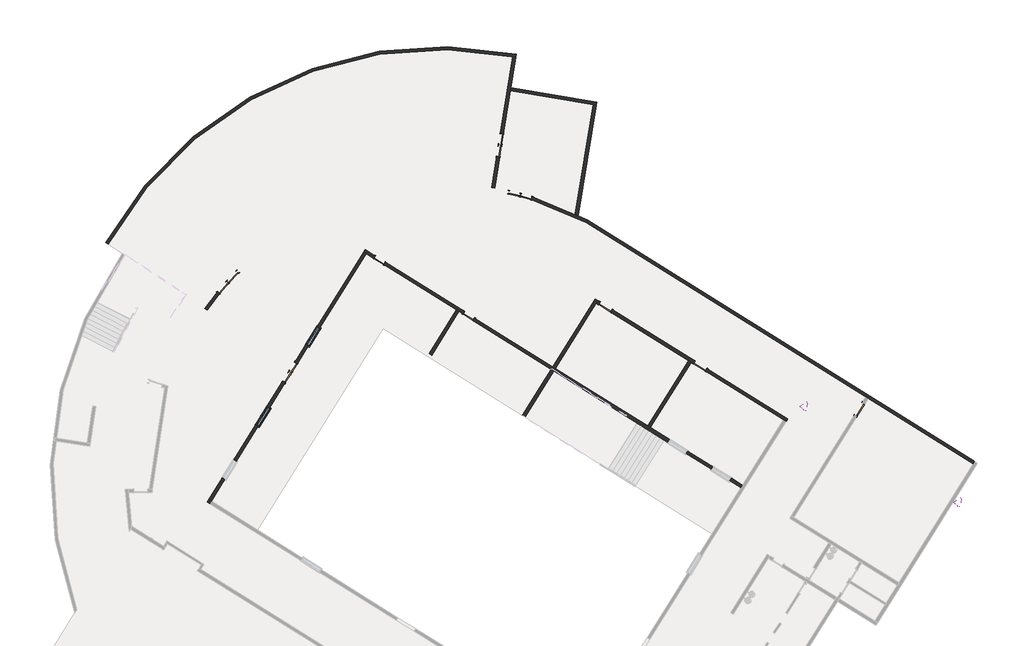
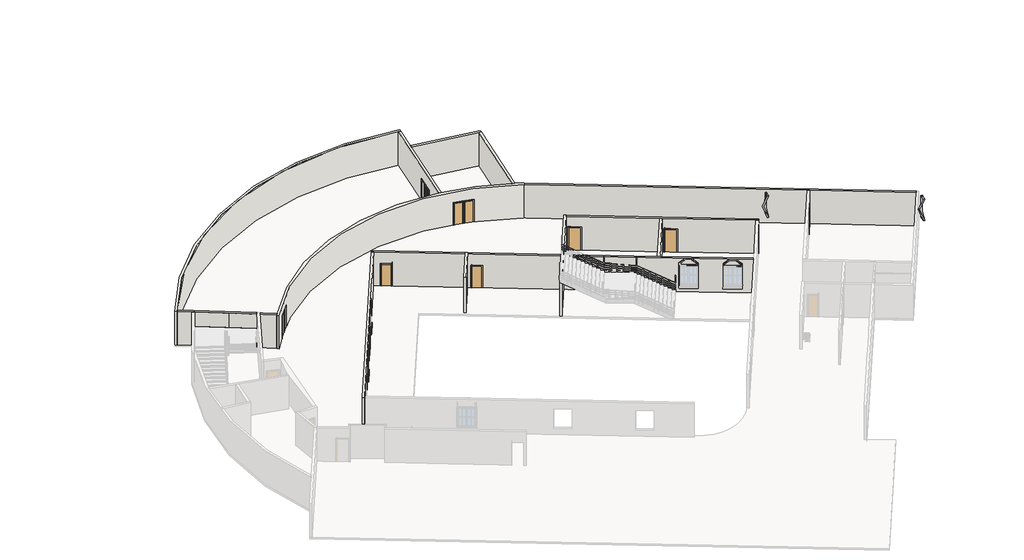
# One storey, part 3 of 4: 14 walls, 13 doors, 2 plates, 2 windows.
"""IFC4 building model written with IfcOpenShell, lengths in millimetres."""

from ifc_helpers import new_model, si_unit, point, frame, frame_2d, origin, place, context, project, spatial, polyline, circle_curve, trimmed, segment, composite_curve, outline, extrude, faceted_brep, transform, mapped, element, save
from ifc_brep_helpers import plane_surface, cylinder_surface, revolved_surface, advanced_brep
from components import m_single_flush_0762_x_2032mm_0c256fab, m_single_flush_0762_x_2032mm_7341a4fb, m_single_flush_0915_x_2134mm_6a9e8738, m_single_flush_0915_x_2134mm_727434cd, plate_91021fb5, m_window_casement_double_1400_x_1800mm_eb8f2d9a

model = new_model("IFC4")

# Units and contexts
model_context = context("Model", 3, world=origin())
ifc_project = project(units=[si_unit("LENGTHUNIT", "METRE", prefix="MILLI")], contexts=[model_context])

# Site, building, storey
site = spatial("IfcSite", under=ifc_project)
building = spatial("IfcBuilding", under=site)
storey = spatial("IfcBuildingStorey", under=building, Name="\u200fمنفی", Elevation=-3600.0)

# Doors
placement = place(None, origin())
m_single_flush_0762_x_2032mm_shape = m_single_flush_0762_x_2032mm_0c256fab(model_context)
element("IfcDoor", 1, ObjectType="M_Single-Flush : 0762 x 2032mm", at=placement, inside=storey, context=model_context, shape_type="MappedRepresentation", body=[
    mapped(m_single_flush_0762_x_2032mm_shape, transform((33797.3332217, -15585.6311152, -3600.0), x_axis=(-0.973075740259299, 0.23048558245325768, 0.0), y_axis=(-0.23048558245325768, -0.973075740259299, 0.0), z_axis=(0.0, 0.0, 1.0))),
])
element("IfcDoor", 2, ObjectType="M_Single-Flush : 0762 x 2032mm", at=placement, inside=storey, context=model_context, shape_type="MappedRepresentation", body=[
    mapped(m_single_flush_0762_x_2032mm_shape, transform((32762.4207323, -12747.5882262, -3600.0), x_axis=(-0.16136449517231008, -0.9868948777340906, 0.0), y_axis=(0.9868948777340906, -0.16136449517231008, 0.0), z_axis=(0.0, 0.0, 1.0))),
])
element("IfcDoor", 3, ObjectType="M_Single-Flush : 0762 x 2032mm", at=placement, inside=storey, context=model_context, shape_type="MappedRepresentation", body=[
    mapped(m_single_flush_0762_x_2032mm_shape, transform((24849.7667953, -19990.8912664, -3600.0), x_axis=(-0.8480480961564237, 0.5299192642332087, 0.0), y_axis=(-0.5299192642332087, -0.8480480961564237, 0.0), z_axis=(0.0, 0.0, 1.0))),
])
element("IfcDoor", 4, ObjectType="M_Single-Flush : 0762 x 2032mm", at=placement, inside=storey, context=model_context, shape_type="MappedRepresentation", body=[
    mapped(m_single_flush_0762_x_2032mm_shape, transform((30753.8776407, -23680.189184, -3600.0), x_axis=(-0.8480480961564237, 0.5299192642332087, 0.0), y_axis=(-0.5299192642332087, -0.8480480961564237, 0.0), z_axis=(0.0, 0.0, 1.0))),
])
element("IfcDoor", 5, ObjectType="M_Single-Flush : 0762 x 2032mm", at=placement, inside=storey, context=model_context, shape_type="MappedRepresentation", body=[
    mapped(m_single_flush_0762_x_2032mm_shape, transform((18749.8864799, -27712.8069703, -3600.0), x_axis=(-0.5299192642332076, -0.8480480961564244, 0.0), y_axis=(0.8480480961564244, -0.5299192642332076, 0.0), z_axis=(0.0, 0.0, 1.0))),
])
m_single_flush_0762_x_2032mm_2_shape = m_single_flush_0762_x_2032mm_7341a4fb(model_context)
element("IfcDoor", 6, ObjectType="M_Single-Flush : 0762 x 2032mm", at=placement, inside=storey, context=model_context, shape_type="MappedRepresentation", body=[
    mapped(m_single_flush_0762_x_2032mm_2_shape, transform((34537.5152549, -15776.2844256, -3600.0), x_axis=(0.9633385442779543, -0.26828874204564, 0.0), y_axis=(0.26828874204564, 0.9633385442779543, 0.0), z_axis=(0.0, 0.0, 1.0))),
])
element("IfcDoor", 7, ObjectType="M_Single-Flush : 0762 x 2032mm", at=placement, inside=storey, context=model_context, shape_type="MappedRepresentation", body=[
    mapped(m_single_flush_0762_x_2032mm_2_shape, transform((32883.6421326, -12006.2059358, -3600.0), x_axis=(0.16136449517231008, 0.9868948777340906, 0.0), y_axis=(-0.9868948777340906, 0.16136449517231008, 0.0), z_axis=(0.0, 0.0, 1.0))),
])
element("IfcDoor", 8, ObjectType="M_Single-Flush : 0762 x 2032mm", at=placement, inside=storey, context=model_context, shape_type="MappedRepresentation", body=[
    mapped(m_single_flush_0762_x_2032mm_2_shape, transform((19120.8299648, -27119.1733029, -3600.0), x_axis=(0.5299192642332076, 0.8480480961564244, 0.0), y_axis=(-0.8480480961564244, 0.5299192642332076, 0.0), z_axis=(0.0, 0.0, 1.0))),
])
m_single_flush_0915_x_2134mm_shape = m_single_flush_0915_x_2134mm_6a9e8738(model_context)
element("IfcDoor", 9, ObjectType="M_Single-Flush : 0915 x 2134mm", at=placement, inside=storey, context=model_context, shape_type="MappedRepresentation", body=[
    mapped(m_single_flush_0915_x_2134mm_shape, transform((39792.5014226, -23078.5026309, -3600.0), x_axis=(-0.8480480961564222, 0.5299192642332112, 0.0), y_axis=(-0.5299192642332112, -0.8480480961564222, 0.0), z_axis=(0.0, 0.0, 1.0))),
])
element("IfcDoor", 10, ObjectType="M_Single-Flush : 0915 x 2134mm", at=placement, inside=storey, context=model_context, shape_type="MappedRepresentation", body=[
    mapped(m_single_flush_0915_x_2134mm_shape, transform((46068.0573341, -26999.9051862, -3600.0), x_axis=(-0.8480480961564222, 0.5299192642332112, 0.0), y_axis=(-0.5299192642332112, -0.8480480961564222, 0.0), z_axis=(0.0, 0.0, 1.0))),
])
element("IfcDoor", 11, ObjectType="M_Single-Flush : 0915 x 2134mm", at=placement, inside=storey, context=model_context, shape_type="MappedRepresentation", body=[
    mapped(m_single_flush_0915_x_2134mm_shape, transform((14514.070001, -21787.4987263, -3600.0), x_axis=(-0.6563837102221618, -0.754427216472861, 0.0), y_axis=(0.754427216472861, -0.6563837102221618, 0.0), z_axis=(0.0, 0.0, 1.0))),
])
m_single_flush_0915_x_2134mm_2_shape = m_single_flush_0915_x_2134mm_727434cd(model_context)
element("IfcDoor", 12, ObjectType="M_Single-Flush : 0915 x 2134mm", at=placement, inside=storey, context=model_context, shape_type="MappedRepresentation", body=[
    mapped(m_single_flush_0915_x_2134mm_2_shape, transform((56609.7403765, -29863.8240283, -3600.0), x_axis=(0.5299192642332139, 0.8480480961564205, 0.0), y_axis=(-0.8480480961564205, 0.5299192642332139, 0.0), z_axis=(0.0, 0.0, 1.0))),
])
element("IfcDoor", 13, ObjectType="M_Single-Flush : 0915 x 2134mm", at=placement, inside=storey, context=model_context, shape_type="MappedRepresentation", body=[
    mapped(m_single_flush_0915_x_2134mm_2_shape, transform((15133.3165078, -21108.6081018, -3600.0), x_axis=(0.6910594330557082, 0.7227979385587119, 0.0), y_axis=(-0.7227979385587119, 0.6910594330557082, 0.0), z_axis=(0.0, 0.0, 1.0))),
])

# Plates
plate_shape = plate_91021fb5(model_context)
element("IfcPlate", 14, ObjectType="مدل پارامتریک کصینوس دار : مدل پارامتریک کصینوس دار", at=placement, inside=storey, context=model_context, shape_type="MappedRepresentation", body=[
    mapped(plate_shape, transform((65038.7048922, -36849.4781454, -4050.0), x_axis=(0.0, 0.0, 1.0), y_axis=(-0.8480480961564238, 0.5299192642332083, 0.0), z_axis=(-0.5299192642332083, -0.8480480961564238, 0.0))),
])
element("IfcPlate", 15, ObjectType="مدل پارامتریک کصینوس دار : مدل پارامتریک کصینوس دار", at=placement, inside=storey, context=model_context, shape_type="MappedRepresentation", body=[
    mapped(plate_shape, transform((54862.1277383, -30490.4469746, -4050.0), x_axis=(0.0, 0.0, 1.0), y_axis=(-0.848048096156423, 0.5299192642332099, 0.0), z_axis=(-0.5299192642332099, -0.848048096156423, 0.0))),
])

# Walls
element("IfcWall", 16, ObjectType="Generic - 200mm", at=placement, inside=storey, context=model_context, shape_type="AdvancedBrep", body=[
    advanced_brep(
    [(13445.4262447, -23292.1887717, -3600.0), (13282.8378757, -23175.7197962, -3600.0), (13319.2863294, -23125.0087401, -3600.0), (13437.24682, -22963.1785232, -3600.0), (14138.3317319, -22067.0108068, -3600.0), (14289.2583664, -22198.323387, -3600.0), (15521.7954565, -20847.0717196, -3600.0), (15377.1964046, -20708.8221016, -3600.0), (32263.1334008, -15181.4542954, -3600.0), (32460.6801651, -15212.7248465, -3600.0), (33449.639923, -15400.5085343, -3600.0), (33403.5340799, -15595.1605246, -3600.0), (14738.9228268, -21376.7099038, -3600.0), (14744.8770233, -21370.1822154, -3600.0), (14880.9433918, -21500.2738254, -3600.0), (38637.861393, -17319.0816534, -3600.0), (38537.2635158, -17492.0568037, -3600.0), (34877.7082082, -15974.8727644, -3600.0), (34931.3761144, -15782.1685819, -3600.0), (37800.5152537, -16892.3648764, -3600.0), (37988.0371855, -16983.579326, -3600.0), (34191.123637, -15576.1385481, -3600.0), (34197.3121437, -15577.7325604, -3600.0), (34153.392358, -15735.4343788, -3600.0), (13282.8378757, -23175.7197962, -450.0), (13319.2823365, -23125.0141408, -450.0), (13437.2411329, -22963.1861804, -450.0), (32263.133704, -15181.4541786, -450.0), (32460.6766464, -15212.7242494, -450.0), (37800.5185603, -16892.3663917, -450.0), (37988.0441018, -16983.582705, -450.0), (38637.861393, -17319.0816534, -450.0), (34931.3761144, -15782.1685819, -1568.0), (34197.3121437, -15577.7325604, -1568.0), (34191.123637, -15576.1385481, -1568.0), (33449.639923, -15400.5085343, -1568.0), (15377.1964046, -20708.8221016, -1466.0), (14744.8770233, -21370.1822154, -1466.0), (14738.9228268, -21376.7099038, -1466.0), (14138.3317319, -22067.0108068, -1466.0), (13445.4262447, -23292.1887717, -450.0), (14289.2583664, -22198.323387, -1466.0), (15521.7954565, -20847.0717196, -1466.0), (33403.5340799, -15595.1605246, -1568.0), (34877.7082082, -15974.8727644, -1568.0), (38537.2635158, -17492.0568037, -450.0), (14880.9433918, -21500.2738254, -1466.0), (34153.392358, -15735.4343788, -1568.0)],
    [
        (0, 1),
        (1, 2, circle_curve(frame((29284.4488792, -34638.3554793, -3600.0), z_axis=(0.0, 0.0, -1.0), x_axis=(1.0, 0.0, 0.0)), 19683.5863478)),
        (2, 3, circle_curve(frame((29284.4488792, -34638.3554793, -3600.0), z_axis=(0.0, 0.0, -1.0), x_axis=(1.0, 0.0, 0.0)), 19683.5862681)),
        (3, 4, circle_curve(frame((29284.4488792, -34638.3554793, -3600.0), z_axis=(0.0, 0.0, -1.0), x_axis=(1.0, 0.0, 0.0)), 19683.5863109)),
        (4, 5),
        (5, 0, circle_curve(frame((29284.4488792, -34638.3554793, -3600.0), z_axis=(0.0, 0.0, 1.0), x_axis=(1.0, 0.0, 0.0)), 19483.5863478)),
        (6, 7),
        (7, 8, circle_curve(frame((29284.4488792, -34638.3554793, -3600.0), z_axis=(0.0, 0.0, -1.0), x_axis=(1.0, 0.0, 0.0)), 19683.5863478)),
        (8, 9, circle_curve(frame((29284.4488792, -34638.3554793, -3600.0), z_axis=(0.0, 0.0, -1.0), x_axis=(1.0, 0.0, 0.0)), 19683.5861864)),
        (9, 10, circle_curve(frame((29284.4488792, -34638.3554793, -3600.0), z_axis=(0.0, 0.0, -1.0), x_axis=(1.0, 0.0, 0.0)), 19683.5863262)),
        (10, 11),
        (11, 6, circle_curve(frame((29284.4488792, -34638.3554793, -3600.0), z_axis=(0.0, 0.0, 1.0), x_axis=(1.0, 0.0, 0.0)), 19483.5863478)),
        (12, 13, circle_curve(frame((29284.4488792, -34638.3554793, -3600.0), z_axis=(0.0, 0.0, -1.0), x_axis=(1.0, 0.0, 0.0)), 19683.5863478)),
        (13, 14),
        (14, 12),
        (15, 16),
        (16, 17, circle_curve(frame((29284.4488792, -34638.3554793, -3600.0), z_axis=(0.0, 0.0, 1.0), x_axis=(1.0, 0.0, 0.0)), 19483.5863478)),
        (17, 18),
        (18, 19, circle_curve(frame((29284.4488792, -34638.3554793, -3600.0), z_axis=(0.0, 0.0, -1.0), x_axis=(1.0, 0.0, 0.0)), 19683.5863478)),
        (19, 20, circle_curve(frame((29284.4488792, -34638.3554793, -3600.0), z_axis=(0.0, 0.0, -1.0), x_axis=(1.0, 0.0, 0.0)), 19683.5862834)),
        (20, 15, circle_curve(frame((29284.4488792, -34638.3554793, -3600.0), z_axis=(0.0, 0.0, -1.0), x_axis=(1.0, 0.0, 0.0)), 19683.5863203)),
        (21, 22, circle_curve(frame((29284.4488792, -34638.3554793, -3600.0), z_axis=(0.0, 0.0, -1.0), x_axis=(1.0, 0.0, 0.0)), 19683.5863478)),
        (22, 23),
        (23, 21),
        (1, 24),
        (24, 25, circle_curve(frame((29284.4488792, -34638.3554793, -450.0), z_axis=(0.0, 0.0, -1.0), x_axis=(1.0, 0.0, 0.0)), 19683.5863478)),
        (25, 26, circle_curve(frame((29284.4488792, -34638.3554793, -450.0), z_axis=(0.0, 0.0, -1.0), x_axis=(1.0, 0.0, 0.0)), 19683.5863478)),
        (26, 27, circle_curve(frame((29284.4488792, -34638.3554793, -450.0), z_axis=(0.0, 0.0, -1.0), x_axis=(1.0, 0.0, 0.0)), 19683.5863478)),
        (27, 28, circle_curve(frame((29284.4488792, -34638.3554793, -450.0), z_axis=(0.0, 0.0, -1.0), x_axis=(1.0, 0.0, 0.0)), 19683.5863478)),
        (28, 29, circle_curve(frame((29284.4488792, -34638.3554793, -450.0), z_axis=(0.0, 0.0, -1.0), x_axis=(1.0, 0.0, 0.0)), 19683.5863478)),
        (29, 30, circle_curve(frame((29284.4488792, -34638.3554793, -450.0), z_axis=(0.0, 0.0, -1.0), x_axis=(1.0, 0.0, 0.0)), 19683.5863478)),
        (30, 31, circle_curve(frame((29284.4488792, -34638.3554793, -450.0), z_axis=(0.0, 0.0, -1.0), x_axis=(1.0, 0.0, 0.0)), 19683.5863478)),
        (31, 15),
        (18, 32),
        (32, 33, circle_curve(frame((29284.4488792, -34638.3554793, -1568.0), z_axis=(0.0, 0.0, 1.0), x_axis=(1.0, 0.0, 0.0)), 19683.5863478)),
        (33, 22),
        (21, 34),
        (34, 35, circle_curve(frame((29284.4488792, -34638.3554793, -1568.0), z_axis=(0.0, 0.0, 1.0), x_axis=(1.0, 0.0, 0.0)), 19683.5863478)),
        (35, 10),
        (7, 36),
        (36, 37, circle_curve(frame((29284.4488792, -34638.3554793, -1466.0), z_axis=(0.0, 0.0, 1.0), x_axis=(1.0, 0.0, 0.0)), 19683.5863478)),
        (37, 13),
        (12, 38),
        (38, 39, circle_curve(frame((29284.4488792, -34638.3554793, -1466.0), z_axis=(0.0, 0.0, 1.0), x_axis=(1.0, 0.0, 0.0)), 19683.5863478)),
        (39, 4),
        (0, 40),
        (40, 24),
        (5, 41),
        (41, 42, circle_curve(frame((29284.4488792, -34638.3554793, -1466.0), z_axis=(0.0, 0.0, -1.0), x_axis=(1.0, 0.0, 0.0)), 19483.5863478)),
        (42, 6),
        (11, 43),
        (43, 44, circle_curve(frame((29284.4488792, -34638.3554793, -1568.0), z_axis=(0.0, 0.0, -1.0), x_axis=(1.0, 0.0, 0.0)), 19483.5863478)),
        (44, 17),
        (16, 45),
        (45, 40, circle_curve(frame((29284.4488792, -34638.3554793, -450.0), z_axis=(0.0, 0.0, 1.0), x_axis=(1.0, 0.0, 0.0)), 19483.5863478)),
        (42, 36),
        (41, 39),
        (38, 46),
        (46, 37),
        (46, 14),
        (31, 45),
        (35, 43),
        (34, 47),
        (47, 33),
        (32, 44),
        (23, 47),
    ],
    [
        plane_surface(frame((48968.0352269, -34638.3554793, -3600.0), z_axis=(0.0, 0.0, -1.0), x_axis=(0.0, -1.0, 0.0))),
        cylinder_surface(frame((29284.4488792, -34638.3554793, -3600.0), z_axis=(0.0, 0.0, 1.0), x_axis=(1.0, 0.0, 0.0)), 19683.5863478),
        plane_surface(frame((13282.8378757, -23175.7197962, -450.0), z_axis=(-0.5823448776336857, -0.8129418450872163, 0.0), x_axis=(0.0, 0.0, -1.0))),
        revolved_surface(polyline([(48768.035227, -34638.3554793, -3600.0), (48768.035227, -34638.3554793, -450.0)]), (29284.4488792, -34638.3554793, -3600.0), (0.0, 0.0, -1.0)),
        plane_surface(frame((15377.1964046, -20708.8221016, -3600.0), z_axis=(-0.691059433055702, -0.7227979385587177, 0.0), x_axis=(0.7227979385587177, -0.691059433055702, 0.0))),
        plane_surface(frame((15377.1964046, -20708.8221016, -1466.0), z_axis=(0.0, 0.0, -1.0), x_axis=(0.7227979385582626, -0.6910594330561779, 0.0))),
        plane_surface(frame((14744.8770233, -21370.1822154, -1466.0), z_axis=(0.6910594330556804, 0.7227979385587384, 0.0), x_axis=(0.7227979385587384, -0.6910594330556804, 0.0))),
        plane_surface(frame((12988.584654, -21066.6820325, -3600.0), z_axis=(0.6563837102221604, 0.7544272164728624, 0.0), x_axis=(0.7544272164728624, -0.6563837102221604, 0.0))),
        plane_surface(frame((13589.1757489, -20376.3811294, -1466.0), z_axis=(-0.6563837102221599, -0.7544272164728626, 0.0), x_axis=(0.7544272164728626, -0.6563837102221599, 0.0))),
        plane_surface(frame((38537.2635158, -17492.0568037, -3600.0), z_axis=(0.8644400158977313, -0.5027359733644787, 0.0), x_axis=(0.5027359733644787, 0.8644400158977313, 0.0))),
        plane_surface(frame((33403.5340799, -15595.1605246, -3600.0), z_axis=(0.9730757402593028, -0.23048558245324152, 0.0), x_axis=(0.23048558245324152, 0.9730757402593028, 0.0))),
        plane_surface(frame((33403.5340799, -15595.1605246, -1568.0), z_axis=(0.0, 0.0, -1.0000000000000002), x_axis=(0.23048558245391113, 0.9730757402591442, 0.0))),
        plane_surface(frame((34145.017794, -15770.7905385, -1568.0), z_axis=(-0.9730757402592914, 0.23048558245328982, 0.0), x_axis=(0.23048558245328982, 0.9730757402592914, 0.0))),
        plane_surface(frame((34522.5040716, -17250.2965234, -3600.0), z_axis=(-0.9633385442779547, 0.26828874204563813, 0.0), x_axis=(0.26828874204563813, 0.9633385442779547, 0.0))),
        plane_surface(frame((33788.4401008, -17045.8605019, -1568.0), z_axis=(0.9633385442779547, -0.26828874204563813, 0.0), x_axis=(0.26828874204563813, 0.9633385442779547, 0.0))),
        plane_surface(frame((44363.2360879, -73226.0361772, -450.0), z_axis=(0.0, 0.0, 1.0), x_axis=(-0.8480480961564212, 0.5299192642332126, 0.0))),
    ],
    [
        (0, [[1, 2, 3, 4, 5, 6]]),
        (0, [[7, 8, 9, 10, 11, 12]]),
        (0, [[13, 14, 15]]),
        (0, [[16, 17, 18, 19, 20, 21]]),
        (0, [[22, 23, 24]]),
        (1, [[25, 26, 27, 28, 29, 30, 31, 32, 33, -21, -20, -19, 34, 35, 36, -22, 37, 38, 39, -10, -9, -8, 40, 41, 42, -13, 43, 44, 45, -4, -3, -2]]),
        (2, [[-1, 46, 47, -25]]),
        (3, [[-46, -6, 48, 49, 50, -12, 51, 52, 53, -17, 54, 55]]),
        (4, [[-40, -7, -50, 56]]),
        (5, [[-41, -56, -49, 57, -44, 58, 59]]),
        (6, [[-42, -59, 60, -14]]),
        (7, [[-57, -48, -5, -45]]),
        (8, [[-58, -43, -15, -60]]),
        (9, [[-54, -16, -33, 61]]),
        (10, [[-51, -11, -39, 62]]),
        (11, [[-38, 63, 64, -35, 65, -52, -62]]),
        (12, [[-37, -24, 66, -63]]),
        (13, [[-65, -34, -18, -53]]),
        (14, [[-64, -66, -23, -36]]),
        (15, [[-32, -31, -30, -29, -28, -27, -26, -47, -55, -61]]),
    ],
),
])
element("IfcWall", 17, ObjectType="Generic - 200mm", at=placement, inside=storey, context=model_context, shape_type="SweptSolid", body=[
    extrude(outline(composite_curve([segment(polyline([(12010.6232883, -22268.7232659), (6898.9966942, -18924.1460998)]), True, "CONTINUOUS"), segment(trimmed(circle_curve(frame_2d((28884.769737, -31239.4123864)), 25200.0), [point((6898.9966942, -18924.1460998))], [point((6997.6371664, -18749.6794895))], False, "CARTESIAN"), True, "CONTINUOUS"), segment(polyline([(6997.6371664, -18749.6794895), (12127.9583762, -22106.4886885)]), True, "CONTINUOUS"), segment(trimmed(circle_curve(frame_2d((29284.4488792, -34638.3554793)), 21246.0078989), [point((12127.9583762, -22106.4886885))], [point((12010.6232883, -22268.7232659))], True, "CARTESIAN"), True, "CONTINUOUS")], self_intersect=False)), frame((0.0, 0.0, -3600.0), z_axis=(0.0, 0.0, 1.0), x_axis=(1.0, 0.0, 0.0)), (0.0, 0.0, 1.0), 3150.0),
])
element("IfcWall", 18, ObjectType="Generic - 200mm", at=placement, inside=storey, context=model_context, shape_type="Brep", body=[
    faceted_brep([(34478.3571427, -30370.462369, -3600.0), (36386.0664939, -27317.4892229, -3600.0), (36492.0503468, -27147.8796036, -3600.0), (39194.6385944, -22822.8343132, -3600.0), (39300.6224472, -22653.224694, -3600.0), (39300.6224472, -22653.224694, -450.0), (39194.6385944, -22822.8343132, -450.0), (36492.0503468, -27147.8796036, -450.0), (36386.0664939, -27317.4892229, -450.0), (34478.3571427, -30370.462369, -450.0), (34308.7475235, -30264.4785162, -3600.0), (34308.7475235, -30264.4785162, -450.0), (34414.7313763, -30094.8688969, -450.0), (36216.4568747, -27211.50537, -450.0), (36322.4407276, -27041.8957508, -450.0), (39131.012828, -22547.2408412, -450.0), (39131.012828, -22547.2408412, -3600.0), (36322.4407276, -27041.8957508, -3600.0), (36216.4568747, -27211.50537, -3600.0), (34414.7313763, -30094.8688969, -3600.0)], [[[0, 1, 2, 3, 4, 5, 6, 7, 8, 9]], [[10, 11, 12, 13, 14, 15, 16, 17, 18, 19]], [[4, 3, 2, 1, 0, 10, 19, 18, 17, 16]], [[5, 4, 16, 15]], [[0, 9, 11, 10]], [[9, 8, 13, 12, 11]], [[8, 7, 6, 5, 15, 14, 13]]]),
])
element("IfcWall", 19, ObjectType="Generic - 200mm", at=placement, inside=storey, context=model_context, shape_type="Brep", body=[
    faceted_brep([(38537.2635158, -17492.0568037, -3600.0), (57009.7587017, -29034.9528987, -3600.0), (57179.368321, -29140.9367516, -3600.0), (64133.3627095, -33486.2747183, -3600.0), (64133.3627095, -33486.2747183, -450.0), (57179.368321, -29140.9367516, -450.0), (57009.7587017, -29034.9528987, -450.0), (38537.2635158, -17492.0568037, -450.0), (64239.3465623, -33316.6650991, -3600.0), (38637.861393, -17319.0816534, -3600.0), (38637.861393, -17319.0816534, -450.0), (64239.3465623, -33316.6650991, -450.0)], [[[0, 1, 2, 3, 4, 5, 6, 7]], [[8, 9, 10, 11]], [[3, 2, 1, 0, 9, 8]], [[4, 3, 8, 11]], [[0, 7, 10, 9]], [[7, 6, 5, 4, 11, 10]]]),
])
element("IfcWall", 20, ObjectType="Generic - 200mm", at=placement, inside=storey, context=model_context, shape_type="Brep", body=[
    faceted_brep([(40127.4915001, -23405.7455039, -3600.0), (45300.5848867, -26638.2530157, -3600.0), (45470.1945059, -26744.2368686, -3600.0), (45627.0834037, -26842.2719324, -3600.0), (45627.0834037, -26842.2719324, -1466.0), (46403.0474117, -27327.1480592, -1466.0), (46403.0474117, -27327.1480592, -3600.0), (51576.1407983, -30559.655571, -3600.0), (51745.7504175, -30665.6394239, -3600.0), (51745.7504175, -30665.6394239, -450.0), (51576.1407983, -30559.655571, -450.0), (45470.1945059, -26744.2368686, -450.0), (45300.5848867, -26638.2530157, -450.0), (39194.6385944, -22822.8343132, -450.0), (39194.6385944, -22822.8343132, -3600.0), (39351.5274922, -22920.8693771, -3600.0), (39351.5274922, -22920.8693771, -1466.0), (40127.4915001, -23405.7455039, -1466.0), (45733.0672566, -26672.6623132, -1466.0), (45733.0672566, -26672.6623132, -3600.0), (40233.475353, -23236.1358847, -3600.0), (40233.475353, -23236.1358847, -1466.0), (39457.511345, -22751.2597579, -1466.0), (39457.511345, -22751.2597579, -3600.0), (39300.6224472, -22653.224694, -3600.0), (39300.6224472, -22653.224694, -450.0), (51851.7342703, -30496.0298047, -450.0), (51851.7342703, -30496.0298047, -3600.0), (46509.0312646, -27157.53844, -3600.0), (46509.0312646, -27157.53844, -1466.0)], [[[0, 1, 2, 3, 4, 5, 6, 7, 8, 9, 10, 11, 12, 13, 14, 15, 16, 17]], [[18, 19, 20, 21, 22, 23, 24, 25, 26, 27, 28, 29]], [[24, 23, 15, 14]], [[28, 27, 8, 7, 6]], [[20, 19, 3, 2, 1, 0]], [[14, 13, 25, 24]], [[9, 8, 27, 26]], [[16, 15, 23, 22]], [[17, 16, 22, 21]], [[0, 17, 21, 20]], [[4, 3, 19, 18]], [[5, 4, 18, 29]], [[6, 5, 29, 28]], [[13, 12, 11, 10, 9, 26, 25]]]),
])
element("IfcWall", 21, ObjectType="Generic - 200mm", at=placement, inside=storey, context=model_context, shape_type="SweptSolid", body=[
    extrude(outline(polyline([(42597.9966391, -30963.2983061), (45300.5848867, -26638.2530157), (45470.1945059, -26744.2368686), (42767.6062583, -31069.282159), (42597.9966391, -30963.2983061)])), frame((0.0, 0.0, -3600.0), z_axis=(0.0, 0.0, 1.0), x_axis=(1.0, 0.0, 0.0)), (0.0, 0.0, 1.0), 3150.0),
])
element("IfcWall", 22, ObjectType="Generic - 200mm", at=placement, inside=storey, context=model_context, shape_type="Brep", body=[
    faceted_brep([(48767.5686978, -35054.3104807, -3600.0), (48767.5686978, -35054.3104807, -450.0), (36386.0664939, -27317.4892229, -450.0), (36386.0664939, -27317.4892229, -3600.0), (43933.6945497, -32033.7706745, -3000.0), (43933.6945497, -32033.7706745, -1200.0), (45120.9618844, -32775.6576445, -1200.0), (45120.9618844, -32775.6576445, -3000.0), (46817.0580767, -33835.4961729, -3000.0), (46817.0580767, -33835.4961729, -1200.0), (48004.3254113, -34577.3831429, -1200.0), (48004.3254113, -34577.3831429, -3000.0), (48873.5525507, -34884.7008614, -450.0), (48873.5525507, -34884.7008614, -3600.0), (42767.6062583, -31069.282159, -3600.0), (42597.9966391, -30963.2983061, -3600.0), (36492.0503468, -27147.8796036, -3600.0), (36492.0503468, -27147.8796036, -450.0), (42597.9966391, -30963.2983061, -450.0), (42767.6062583, -31069.282159, -450.0), (44039.6784026, -31864.1610553, -1200.0), (44039.6784026, -31864.1610553, -3000.0), (45226.9457372, -32606.0480252, -3000.0), (45226.9457372, -32606.0480252, -1200.0), (46923.0419295, -33665.8865537, -1200.0), (46923.0419295, -33665.8865537, -3000.0), (48110.3092641, -34407.7735236, -3000.0), (48110.3092641, -34407.7735236, -1200.0)], [[[0, 1, 2, 3], [4, 5, 6, 7], [8, 9, 10, 11]], [[12, 13, 14, 15, 16, 17, 18, 19], [20, 21, 22, 23], [24, 25, 26, 27]], [[13, 0, 3, 16, 15, 14]], [[3, 2, 17, 16]], [[1, 0, 13, 12]], [[1, 12, 19, 18, 17, 2]], [[21, 20, 5, 4]], [[22, 21, 4, 7]], [[23, 22, 7, 6]], [[20, 23, 6, 5]], [[25, 24, 9, 8]], [[26, 25, 8, 11]], [[27, 26, 11, 10]], [[24, 27, 10, 9]]]),
    faceted_brep([(23795.2300673, -19449.8614249, -450.0), (23795.2300673, -19449.8614249, -3600.0), (23964.8396865, -19555.8452778, -3600.0), (24473.6685442, -19873.7968363, -3600.0), (24473.6685442, -19873.7968363, -1568.0), (25119.8811935, -20277.5953157, -1568.0), (25119.8811935, -20277.5953157, -3600.0), (29940.9009632, -23290.1028147, -3600.0), (30110.5105824, -23396.0866675, -3600.0), (30377.7793896, -23563.0947539, -3600.0), (30377.7793896, -23563.0947539, -1568.0), (31023.9920389, -23966.8932333, -1568.0), (31023.9920389, -23966.8932333, -3600.0), (36216.4568747, -27211.50537, -3600.0), (36216.4568747, -27211.50537, -450.0), (28968.3234538, -22682.3689368, -450.0), (23964.8396865, -19555.8452778, -450.0), (23901.2139201, -19280.2518057, -3600.0), (23901.2139201, -19280.2518057, -450.0), (36322.4407276, -27041.8957508, -450.0), (36322.4407276, -27041.8957508, -3600.0), (31129.9758918, -23797.283614, -3600.0), (31129.9758918, -23797.283614, -1568.0), (30483.7632425, -23393.4851347, -1568.0), (30483.7632425, -23393.4851347, -3600.0), (25225.8650463, -20107.9856964, -3600.0), (25225.8650463, -20107.9856964, -1568.0), (24579.6523971, -19704.1872171, -1568.0), (24579.6523971, -19704.1872171, -3600.0)], [[[0, 1, 2, 3, 4, 5, 6, 7, 8, 9, 10, 11, 12, 13, 14, 15, 16]], [[17, 18, 19, 20, 21, 22, 23, 24, 25, 26, 27, 28]], [[1, 17, 28, 3, 2]], [[6, 25, 24, 9, 8, 7]], [[12, 21, 20, 13]], [[14, 13, 20, 19]], [[1, 0, 18, 17]], [[18, 0, 16, 15, 14, 19]], [[4, 3, 28, 27]], [[5, 4, 27, 26]], [[6, 5, 26, 25]], [[10, 9, 24, 23]], [[11, 10, 23, 22]], [[12, 11, 22, 21]]]),
])
element("IfcWall", 23, ObjectType="Generic - 200mm", at=placement, inside=storey, context=model_context, shape_type="Brep", body=[
    faceted_brep([(23795.2300673, -19449.8614249, -450.0), (23795.2300673, -19449.8614249, -3600.0), (19237.9243949, -26743.0750519, -3600.0), (19237.9243949, -26743.0750519, -1568.0), (18463.1824306, -27982.9213685, -1568.0), (18463.1824306, -27982.9213685, -3600.0), (13454.385545, -35998.6719733, -3600.0), (13454.385545, -35998.6719733, -450.0), (19979.8113648, -25555.8077173, -1200.0), (19979.8113648, -25555.8077173, -3000.0), (20721.6983347, -24368.5403826, -3000.0), (20721.6983347, -24368.5403826, -1200.0), (16661.4569322, -30866.2848954, -1200.0), (16661.4569322, -30866.2848954, -3000.0), (17403.3439021, -29679.0175608, -3000.0), (17403.3439021, -29679.0175608, -1200.0), (14461.2321471, -34387.3805906, -1200.0), (14461.2321471, -34387.3805906, -3000.0), (15203.119117, -33200.113256, -3000.0), (15203.119117, -33200.113256, -1200.0), (23964.8396865, -19555.8452778, -3600.0), (23964.8396865, -19555.8452778, -450.0), (22163.1141881, -22439.2088047, -450.0), (22057.1303353, -22608.818424, -450.0), (20838.3160275, -24559.3290451, -450.0), (13729.9790171, -35935.046207, -450.0), (13623.9951643, -36104.6558262, -450.0), (13623.9951643, -36104.6558262, -3600.0), (13729.9790171, -35935.046207, -3600.0), (18632.7920498, -28088.9052213, -3600.0), (18632.7920498, -28088.9052213, -1568.0), (19407.5340141, -26849.0589047, -1568.0), (19407.5340141, -26849.0589047, -3600.0), (22057.1303353, -22608.818424, -3600.0), (22163.1141881, -22439.2088047, -3600.0), (20149.420984, -25661.7915701, -1200.0), (20891.307954, -24474.5242355, -1200.0), (20891.307954, -24474.5242355, -3000.0), (20149.420984, -25661.7915701, -3000.0), (16831.0665514, -30972.2687482, -1200.0), (17572.9535213, -29785.0014136, -1200.0), (17572.9535213, -29785.0014136, -3000.0), (16831.0665514, -30972.2687482, -3000.0), (14630.8417663, -34493.3644435, -1200.0), (15372.7287362, -33306.0971089, -1200.0), (15372.7287362, -33306.0971089, -3000.0), (14630.8417663, -34493.3644435, -3000.0)], [[[0, 1, 2, 3, 4, 5, 6, 7], [8, 9, 10, 11], [12, 13, 14, 15], [16, 17, 18, 19]], [[20, 21, 22, 23, 24, 25, 26, 27, 28, 29, 30, 31, 32, 33, 34], [35, 36, 37, 38], [39, 40, 41, 42], [43, 44, 45, 46]], [[1, 20, 34, 33, 32, 2]], [[27, 6, 5, 29, 28]], [[1, 0, 21, 20]], [[7, 6, 27, 26]], [[21, 0, 7, 26, 25, 24, 23, 22]], [[30, 29, 5, 4]], [[30, 4, 3, 31]], [[31, 3, 2, 32]], [[9, 8, 35, 38]], [[10, 9, 38, 37]], [[11, 10, 37, 36]], [[8, 11, 36, 35]], [[13, 12, 39, 42]], [[14, 13, 42, 41]], [[15, 14, 41, 40]], [[12, 15, 40, 39]], [[17, 16, 43, 46]], [[18, 17, 46, 45]], [[19, 18, 45, 44]], [[16, 19, 44, 43]]]),
])
element("IfcWall", 24, ObjectType="Generic - 200mm", at=placement, inside=storey, context=model_context, shape_type="AdvancedBrep", body=[
    advanced_brep(
    [(6898.9966942, -18924.1460998, -3600.0), (6731.2444612, -18814.3845048, -3600.0), (33911.1558932, -6341.7128499, -3600.0), (33878.8605571, -6539.2290494, -3600.0), (33682.5439948, -6500.3470791, -3600.0), (6997.6461202, -18749.664184, -3600.0), (6997.2349847, -18750.3846838, -3600.0), (33878.8605571, -6539.2290494, -450.0), (33682.5616845, -6500.3503098, -450.0), (6997.6371936, -18749.6794418, -450.0), (6997.2261712, -18750.3997491, -450.0), (6898.9966942, -18924.1460998, -450.0), (6731.2444612, -18814.3845048, -450.0), (33911.1558932, -6341.7128499, -450.0)],
    [
        (0, 1),
        (1, 2, circle_curve(frame((28884.769737, -31239.4123864, -3600.0), z_axis=(0.0, 0.0, -1.0), x_axis=(1.0, 0.0, 0.0)), 25400.0)),
        (2, 3),
        (3, 4, circle_curve(frame((28884.769737, -31239.4123864, -3600.0), z_axis=(0.0, 0.0, 1.0), x_axis=(1.0, 0.0, 0.0)), 25200.0)),
        (4, 5, circle_curve(frame((28884.769737, -31239.4123864, -3600.0), z_axis=(0.0, 0.0, 1.0), x_axis=(1.0, 0.0, 0.0)), 25199.9998037)),
        (5, 6, circle_curve(frame((28884.769737, -31239.4123864, -3600.0), z_axis=(0.0, 0.0, 1.0), x_axis=(1.0, 0.0, 0.0)), 25199.9998091)),
        (6, 0, circle_curve(frame((28884.769737, -31239.4123864, -3600.0), z_axis=(0.0, 0.0, 1.0), x_axis=(1.0, 0.0, 0.0)), 25199.9998112)),
        (7, 8, circle_curve(frame((28884.769737, -31239.4123864, -450.0), z_axis=(0.0, 0.0, 1.0), x_axis=(1.0, 0.0, 0.0)), 25200.0)),
        (8, 9, circle_curve(frame((28884.769737, -31239.4123864, -450.0), z_axis=(0.0, 0.0, 1.0), x_axis=(1.0, 0.0, 0.0)), 25200.0)),
        (9, 10, circle_curve(frame((28884.769737, -31239.4123864, -450.0), z_axis=(0.0, 0.0, 1.0), x_axis=(1.0, 0.0, 0.0)), 25200.0)),
        (10, 11, circle_curve(frame((28884.769737, -31239.4123864, -450.0), z_axis=(0.0, 0.0, 1.0), x_axis=(1.0, 0.0, 0.0)), 25200.0)),
        (11, 0),
        (3, 7),
        (12, 13, circle_curve(frame((28884.769737, -31239.4123864, -450.0), z_axis=(0.0, 0.0, -1.0), x_axis=(1.0, 0.0, 0.0)), 25400.0)),
        (13, 2),
        (1, 12),
        (13, 7),
        (11, 12),
    ],
    [
        plane_surface(frame((54084.769737, -31239.4123864, -3600.0), z_axis=(0.0, 0.0, -1.0), x_axis=(0.0, 1.0, 0.0))),
        revolved_surface(polyline([(54084.769736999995, -31239.4123864, -3600.0), (54084.769736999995, -31239.4123864, -450.0)]), (28884.769737, -31239.4123864, -3600.0), (0.0, 0.0, -1.0)),
        cylinder_surface(frame((28884.769737, -31239.4123864, -3600.0), z_axis=(0.0, 0.0, 1.0), x_axis=(1.0, 0.0, 0.0)), 25400.0),
        plane_surface(frame((33545.7788579, -8576.3353062, -3600.0), z_axis=(0.9868948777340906, -0.16136449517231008, 0.0), x_axis=(0.16136449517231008, 0.9868948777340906, 0.0))),
        plane_surface(frame((8007.113091, -19649.1953048, -3600.0), z_axis=(-0.5475199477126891, -0.8367926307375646, 0.0), x_axis=(0.8367926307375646, -0.5475199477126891, 0.0))),
        plane_surface(frame((44363.2360879, -73226.0361772, -450.0), z_axis=(0.0, 0.0, 1.0), x_axis=(-0.8480480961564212, 0.5299192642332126, 0.0))),
    ],
    [
        (0, [[1, 2, 3, 4, 5, 6, 7]]),
        (1, [[8, 9, 10, 11, 12, -7, -6, -5, -4, 13]]),
        (2, [[14, 15, -2, 16]]),
        (3, [[17, -13, -3, -15]]),
        (4, [[18, -16, -1, -12]]),
        (5, [[-11, -10, -9, -8, -17, -14, -18]]),
    ],
),
])
element("IfcWall", 25, ObjectType="Generic - 200mm", at=placement, inside=storey, context=model_context, shape_type="AdvancedBrep", body=[
    advanced_brep(
    [(33878.8605571, -6539.2290494, -3600.0), (33878.8605571, -6539.2290494, -450.0), (33545.4235237, -8578.5085073, -450.0), (33513.1505909, -8775.8876896, -450.0), (32460.6808533, -15212.7249372, -450.0), (32460.6808533, -15212.7249372, -3600.0), (32799.6303474, -13139.7316241, -3600.0), (32799.6303474, -13139.7316241, -1568.0), (33043.811493, -11646.3354369, -1568.0), (33043.811493, -11646.3354369, -3600.0), (33513.1505909, -8775.8876896, -3600.0), (33545.4235237, -8578.5085073, -3600.0), (33682.5616845, -6500.3503098, -450.0), (33682.5616845, -6500.3503098, -3600.0), (32846.4325174, -11614.0625378, -3600.0), (32846.4325174, -11614.0625378, -1568.0), (32602.2513718, -13107.4587251, -1568.0), (32602.2513718, -13107.4587251, -3600.0), (32263.1379151, -15181.4548233, -3600.0), (32263.1379151, -15181.4548233, -450.0)],
    [
        (0, 1),
        (1, 2),
        (2, 3),
        (3, 4),
        (4, 5),
        (5, 6),
        (6, 7),
        (7, 8),
        (8, 9),
        (9, 10),
        (10, 11),
        (11, 0),
        (12, 13),
        (13, 14),
        (14, 15),
        (15, 16),
        (16, 17),
        (17, 18),
        (18, 19),
        (19, 12),
        (13, 0, circle_curve(frame((28884.769737, -31239.4123864, -3600.0), z_axis=(0.0, 0.0, -1.0), x_axis=(1.0, 0.0, 0.0)), 25200.0)),
        (9, 14),
        (5, 18, circle_curve(frame((29284.4488792, -34638.3554793, -3600.0), z_axis=(0.0, 0.0, 1.0), x_axis=(1.0, 0.0, 0.0)), 19683.5863478)),
        (17, 6),
        (12, 1, circle_curve(frame((28884.769737, -31239.4123864, -450.0), z_axis=(0.0, 0.0, -1.0), x_axis=(1.0, 0.0, 0.0)), 25200.0)),
        (16, 7),
        (15, 8),
        (4, 19, circle_curve(frame((29284.4488792, -34638.3554793, -450.0), z_axis=(0.0, 0.0, 1.0), x_axis=(1.0, 0.0, 0.0)), 19683.5863478)),
    ],
    [
        plane_surface(frame((33545.7788579, -8576.3353062, -3600.0), z_axis=(0.9868948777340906, -0.16136449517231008, 0.0), x_axis=(0.16136449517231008, 0.9868948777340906, 0.0))),
        plane_surface(frame((33348.3998824, -8544.0624071, -3600.0), z_axis=(-0.9868948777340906, 0.16136449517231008, 0.0), x_axis=(-0.16136449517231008, -0.9868948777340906, 0.0))),
        plane_surface(frame((32444.5032046, -15311.6663965, -3600.0), z_axis=(0.0, 0.0, -1.0000000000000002), x_axis=(-0.9868948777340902, 0.16136449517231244, 0.0))),
        cylinder_surface(frame((28884.769737, -31239.4123864, -3600.0), z_axis=(0.0, 0.0, -1.0), x_axis=(1.0, 0.0, 0.0)), 25200.0),
        plane_surface(frame((32799.6303474, -13139.7316241, -3600.0), z_axis=(0.16136449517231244, 0.9868948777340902, 0.0), x_axis=(-0.9868948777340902, 0.16136449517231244, 0.0))),
        plane_surface(frame((32799.6303474, -13139.7316241, -1568.0), z_axis=(0.0, 0.0, -1.0), x_axis=(-0.9868948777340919, 0.1613644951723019, 0.0))),
        plane_surface(frame((34350.4603111, -11859.9820285, -3600.0), z_axis=(-0.16136449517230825, -0.9868948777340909, 0.0), x_axis=(-0.9868948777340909, 0.16136449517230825, 0.0))),
        revolved_surface(polyline([(48968.035227, -34638.3554793, -450.0), (48968.035227, -34638.3554793, -3600.0)]), (29284.4488792, -34638.3554793, -3600.0), (0.0, 0.0, 1.0)),
        plane_surface(frame((44363.2360879, -73226.0361772, -450.0), z_axis=(0.0, 0.0, 1.0), x_axis=(-0.8480480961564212, 0.5299192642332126, 0.0))),
    ],
    [
        (0, [[1, 2, 3, 4, 5, 6, 7, 8, 9, 10, 11, 12]]),
        (1, [[13, 14, 15, 16, 17, 18, 19, 20]]),
        (2, [[21, -12, -11, -10, 22, -14]]),
        (2, [[23, -18, 24, -6]]),
        (3, [[-1, -21, -13, 25]]),
        (4, [[-7, -24, -17, 26]]),
        (5, [[-26, -16, 27, -8]]),
        (6, [[-27, -15, -22, -9]]),
        (7, [[-23, -5, 28, -19]]),
        (8, [[-4, -3, -2, -25, -20, -28]]),
    ],
),
])
element("IfcWall", 26, ObjectType="Generic - 200mm", at=placement, inside=storey, context=model_context, shape_type="Brep", body=[
    faceted_brep([(39236.3020104, -9517.4691243, -3600.0), (33545.4235237, -8578.5085073, -3600.0), (33545.4235237, -8578.5085073, -450.0), (39236.3020104, -9517.4691243, -450.0), (39203.3217399, -9714.7316002, -3600.0), (39203.3217399, -9714.7316002, -450.0), (39005.98924, -9682.1729282, -450.0), (33513.1505909, -8775.8876896, -450.0), (33513.1505909, -8775.8876896, -3600.0), (39005.98924, -9682.1729282, -3600.0)], [[[0, 1, 2, 3]], [[4, 5, 6, 7, 8, 9]], [[1, 0, 4, 9, 8]], [[0, 3, 5, 4]], [[2, 1, 8, 7]], [[3, 2, 7, 6, 5]]]),
])
element("IfcWall", 27, ObjectType="Generic - 200mm", at=placement, inside=storey, context=model_context, shape_type="AdvancedBrep", body=[
    advanced_brep(
    [(13437.2409934, -22963.1863698, -3600.0), (6997.2261201, -18750.3998385, -3600.0), (6997.2261201, -18750.3998385, -450.0), (13437.2409934, -22963.1863698, -450.0), (13319.2823026, -23125.0141878, -3600.0), (13319.2823026, -23125.0141878, -450.0), (8006.7112221, -19649.7539073, -450.0), (7839.1778843, -19540.1606528, -450.0), (6898.591848, -18924.8688774, -450.0), (6898.591848, -18924.8688774, -3600.0), (7839.1778843, -19540.1606528, -3600.0), (8006.7112221, -19649.7539073, -3600.0), (6898.9966963, -18924.146096, -3600.0), (6898.9966942, -18924.1460998, -450.0)],
    [
        (0, 1),
        (1, 2),
        (2, 3),
        (3, 0),
        (4, 5),
        (5, 6),
        (6, 7),
        (7, 8),
        (8, 9),
        (9, 10),
        (10, 11),
        (11, 4),
        (0, 4, circle_curve(frame((29284.4488792, -34638.3554793, -3600.0), z_axis=(0.0, 0.0, 1.0), x_axis=(1.0, 0.0, 0.0)), 19683.5863478)),
        (9, 12, circle_curve(frame((28884.769737, -31239.4123864, -3600.0), z_axis=(0.0, 0.0, -1.0), x_axis=(1.0, 0.0, 0.0)), 25200.0)),
        (12, 1, circle_curve(frame((28884.769737, -31239.4123864, -3600.0), z_axis=(0.0, 0.0, -1.0), x_axis=(1.0, 0.0, 0.0)), 25200.0)),
        (8, 13, circle_curve(frame((28884.769737, -31239.4123864, -450.0), z_axis=(0.0, 0.0, -1.0), x_axis=(1.0, 0.0, 0.0)), 25200.0)),
        (13, 2, circle_curve(frame((28884.769737, -31239.4123864, -450.0), z_axis=(0.0, 0.0, -1.0), x_axis=(1.0, 0.0, 0.0)), 25200.0)),
        (3, 5, circle_curve(frame((29284.4488792, -34638.3554793, -450.0), z_axis=(0.0, 0.0, 1.0), x_axis=(1.0, 0.0, 0.0)), 19683.5863478)),
    ],
    [
        plane_surface(frame((13428.6824975, -22957.5877622, -3600.0), z_axis=(0.5474320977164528, 0.8368501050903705, 0.0), x_axis=(-0.8368501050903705, 0.5474320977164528, 0.0))),
        plane_surface(frame((13319.1960779, -23124.9577832, -3600.0), z_axis=(-0.5474320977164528, -0.8368501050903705, 0.0), x_axis=(0.8368501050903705, -0.5474320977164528, 0.0))),
        plane_surface(frame((13516.5841671, -23015.0893328, -3600.0), z_axis=(0.0, 0.0, -1.0000000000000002), x_axis=(-0.5474320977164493, -0.8368501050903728, 0.0))),
        cylinder_surface(frame((28884.769737, -31239.4123864, -3600.0), z_axis=(0.0, 0.0, -1.0), x_axis=(1.0, 0.0, 0.0)), 25200.0),
        revolved_surface(polyline([(48968.035227, -34638.3554793, -450.0), (48968.035227, -34638.3554793, -3600.0)]), (29284.4488792, -34638.3554793, -3600.0), (0.0, 0.0, 1.0)),
        plane_surface(frame((44363.2360879, -73226.0361772, -450.0), z_axis=(0.0, 0.0, 1.0), x_axis=(-0.8480480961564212, 0.5299192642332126, 0.0))),
    ],
    [
        (0, [[1, 2, 3, 4]]),
        (1, [[5, 6, 7, 8, 9, 10, 11, 12]]),
        (2, [[-1, 13, -12, -11, -10, 14, 15]]),
        (3, [[-2, -15, -14, -9, 16, 17]]),
        (4, [[-4, 18, -5, -13]]),
        (5, [[-3, -17, -16, -8, -7, -6, -18]]),
    ],
),
])
element("IfcWall", 28, ObjectType="Generic - 200mm", at=placement, inside=storey, context=model_context, shape_type="SweptSolid", body=[
    extrude(outline(composite_curve([segment(polyline([(37800.5185603, -16892.3663917), (39005.98924, -9682.1729282), (39203.3217399, -9714.7316002), (37988.0441018, -16983.582705)]), True, "CONTINUOUS"), segment(trimmed(circle_curve(frame_2d((29284.4488792, -34638.3554793)), 19683.5863478), [point((37988.0441018, -16983.582705))], [point((37800.5185603, -16892.3663917))], True, "CARTESIAN"), True, "CONTINUOUS")], self_intersect=False)), frame((0.0, 0.0, -3600.0), z_axis=(0.0, 0.0, 1.0), x_axis=(1.0, 0.0, 0.0)), (0.0, 0.0, 1.0), 3150.0),
])
element("IfcWall", 29, ObjectType="Generic - 200mm", at=placement, inside=storey, context=model_context, shape_type="SweptSolid", body=[
    extrude(outline(polyline([(28139.1754648, -26173.4663416), (29940.9009632, -23290.1028147), (30110.5105824, -23396.0866675), (28308.785084, -26279.4501945), (28139.1754648, -26173.4663416)])), frame((0.0, 0.0, -3600.0), z_axis=(0.0, 0.0, 1.0), x_axis=(1.0, 0.0, 0.0)), (0.0, 0.0, 1.0), 3300.0),
])

# Windows
m_window_casement_double_1400_x_1800mm_shape = m_window_casement_double_1400_x_1800mm_eb8f2d9a(model_context)
element("IfcWindow", 30, ObjectType="M_Window-Casement-Double : 1400 x 1800mm", at=placement, inside=storey, context=model_context, shape_type="MappedRepresentation", body=[
    mapped(m_window_casement_double_1400_x_1800mm_shape, transform((17117.2052268, -30325.6431545, -3900.0), x_axis=(-0.5299192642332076, -0.8480480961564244, 0.0), y_axis=(0.8480480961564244, -0.5299192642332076, 0.0), z_axis=(0.0, 0.0, 1.0))),
])
element("IfcWindow", 31, ObjectType="M_Window-Casement-Double : 1400 x 1800mm", at=placement, inside=storey, context=model_context, shape_type="MappedRepresentation", body=[
    mapped(m_window_casement_double_1400_x_1800mm_shape, transform((20435.5596594, -25015.1659764, -3900.0), x_axis=(-0.5299192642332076, -0.8480480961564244, 0.0), y_axis=(0.8480480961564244, -0.5299192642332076, 0.0), z_axis=(0.0, 0.0, 1.0))),
])

save(model, "model.ifc")
